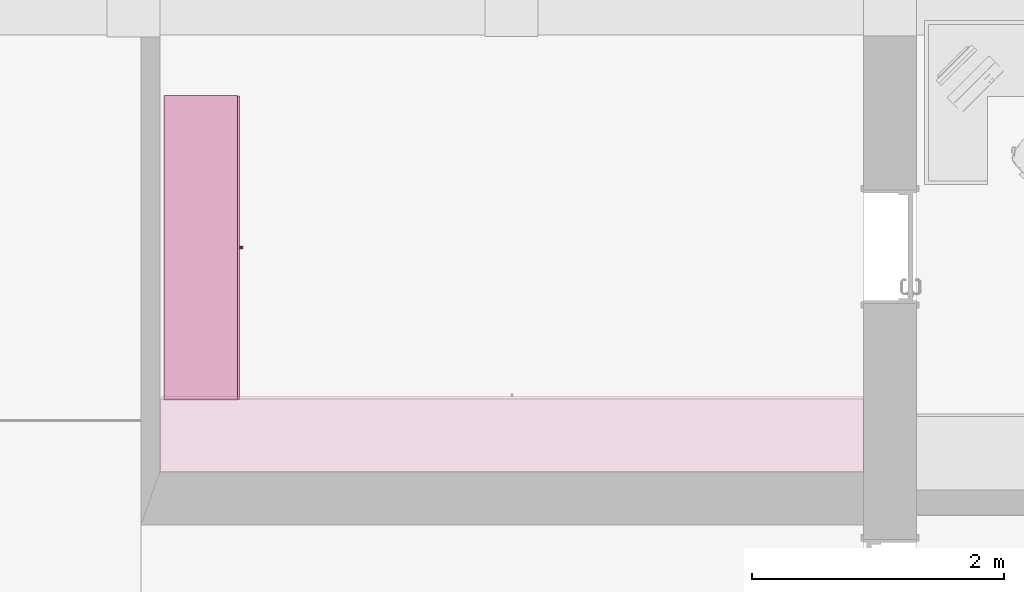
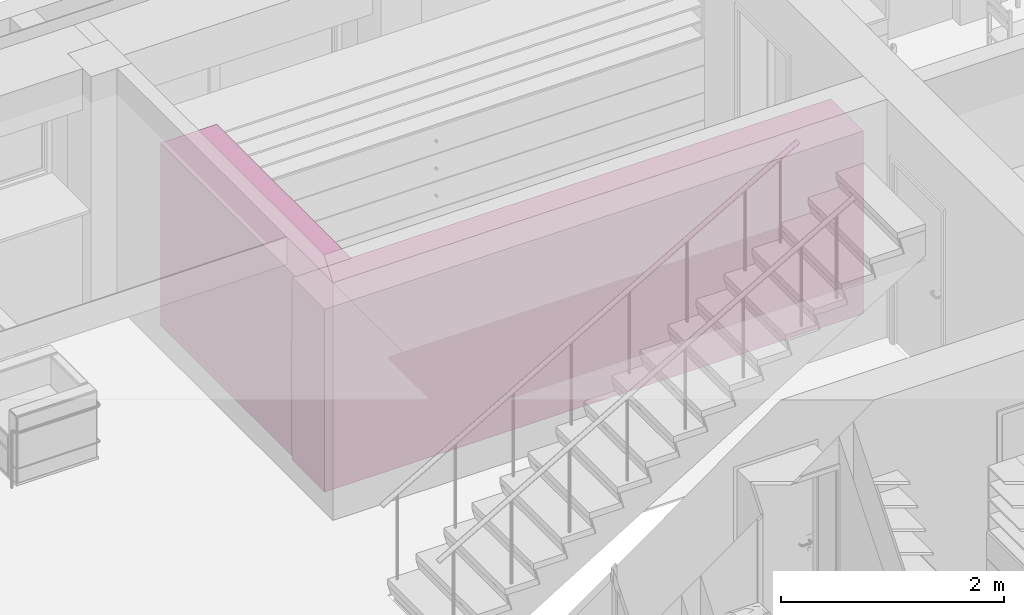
# One storey, part 101 of 127: 2 furnishings.
"""IFC2X3 building model written with IfcOpenShell, lengths in millimetres."""

import ifcopenshell
import ifcopenshell.guid

model = None  # the IFC model being written
_history = None  # IfcOwnerHistory: only IFC2X3 demands one
_inside = {}  # id of a spatial element -> (the spatial element, [elements in it])
_under = {}  # id of a project, library or spatial element -> (it, [spatial elements below it])
_declared = {}  # id of a project -> (the project, [libraries it declares])
_typed = {}  # id of a type object -> (the type object, [elements of that type])
_made_of = {}  # id of a material, layer set ... -> (it, [elements and type objects made of it])


def new_model(schema):
    """Start an empty IFC model of exactly this schema.

    Asked for "IFC4X3", IfcOpenShell would pick the latest addendum, in which some entities
    have other attributes; the version numbers below select the first issue.
    IFC2X3 requires an IfcOwnerHistory on every rooted entity: one is made here for all.
    """
    global model, _history
    if schema == "IFC4X3":
        model = ifcopenshell.file(schema_version=(4, 3, 0, 0))
    else:
        model = ifcopenshell.file(schema=schema)
    _inside.clear()
    _under.clear()
    _declared.clear()
    _typed.clear()
    _made_of.clear()
    _history = None
    if model.schema == "IFC2X3":
        org = make("IfcOrganization", Name="unknown")
        user = make(
            "IfcPersonAndOrganization",
            ThePerson=make("IfcPerson", FamilyName="unknown"),
            TheOrganization=org,
        )
        app = make(
            "IfcApplication",
            ApplicationDeveloper=org,
            Version="unknown",
            ApplicationFullName="unknown",
            ApplicationIdentifier="unknown",
        )
        _history = make(
            "IfcOwnerHistory",
            OwningUser=user,
            OwningApplication=app,
            ChangeAction="ADDED",
            CreationDate=0,
        )
    return model


def make(cls, **values):
    """One entity of the class cls with the attributes given. An attribute that is None is left unset."""
    return model.create_entity(
        cls, **{name: value for name, value in values.items() if value is not None}
    )


def entity(cls, *values):
    """Any entity or typed value of the class cls, its attributes in the order of the schema. None: left unset."""
    e = model.create_entity(cls)
    for i, value in enumerate(values):
        if value is not None:
            e[i] = value
    return e


def rooted(cls, **values):
    """An entity with a GlobalId (a new one), such as an element, a storey or a relation."""
    return make(cls, GlobalId=ifcopenshell.guid.new(), OwnerHistory=_history, **values)


def si_unit(unit_type, name, prefix=None):
    """IfcSIUnit, for example si_unit("LENGTHUNIT", "METRE", prefix="MILLI")."""
    return make("IfcSIUnit", UnitType=unit_type, Prefix=prefix, Name=name)


def converted_unit(unit_type, name, factor, base, dimensions=None, offset=None):
    """IfcConversionBasedUnit, such as the inch: factor (a typed value) times the base unit."""
    return make(
        "IfcConversionBasedUnit"
        if offset is None
        else "IfcConversionBasedUnitWithOffset",
        ConversionOffset=offset,
        Dimensions=None
        if dimensions is None
        else entity("IfcDimensionalExponents", *dimensions),
        UnitType=unit_type,
        Name=name,
        ConversionFactor=make(
            "IfcMeasureWithUnit", ValueComponent=factor, UnitComponent=base
        ),
    )


def derived_unit(unit_type, elements):
    """IfcDerivedUnit: a product of units, each with its exponent."""
    return make(
        "IfcDerivedUnit",
        Elements=[
            make("IfcDerivedUnitElement", Unit=unit, Exponent=power)
            for unit, power in elements
        ],
        UnitType=unit_type,
    )


def money_unit(currency):
    """IfcMonetaryUnit."""
    return make("IfcMonetaryUnit", Currency=currency)


def assignment(units):
    """IfcUnitAssignment: the units of a project."""
    return None if units is None else make("IfcUnitAssignment", Units=units)


def point(xyz):
    """IfcCartesianPoint."""
    return None if xyz is None else make("IfcCartesianPoint", Coordinates=xyz)


def direction(xyz):
    """IfcDirection."""
    return None if xyz is None else make("IfcDirection", DirectionRatios=xyz)


def frame(location, z_axis=None, x_axis=None):
    """IfcAxis2Placement3D, a coordinate frame: its origin and axes. An axis left out is left unset."""
    return make(
        "IfcAxis2Placement3D",
        Location=point(location),
        Axis=direction(z_axis),
        RefDirection=direction(x_axis),
    )


def origin_with_axes():
    """The frame at (0, 0, 0) with the z axis (0, 0, 1) and the x axis (1, 0, 0) written out."""
    return frame((0.0, 0.0, 0.0), z_axis=(0.0, 0.0, 1.0), x_axis=(1.0, 0.0, 0.0))


def place(relative_to, where):
    """IfcLocalPlacement: puts the frame where relative to a parent placement (None: the world)."""
    return make(
        "IfcLocalPlacement", PlacementRelTo=relative_to, RelativePlacement=where
    )


def context(
    kind, dimensions, precision=None, world=None, true_north=None, identifier=None
):
    """IfcGeometricRepresentationContext, for example the 3D "Model" context."""
    return make(
        "IfcGeometricRepresentationContext",
        ContextIdentifier=identifier,
        ContextType=kind,
        CoordinateSpaceDimension=dimensions,
        Precision=precision,
        WorldCoordinateSystem=world,
        TrueNorth=true_north,
    )


def subcontext(parent, identifier, kind, view, scale=None):
    """IfcGeometricRepresentationSubContext, for example "Body" below "Model"."""
    return make(
        "IfcGeometricRepresentationSubContext",
        ContextIdentifier=identifier,
        ContextType=kind,
        ParentContext=parent,
        TargetScale=scale,
        TargetView=view,
    )


def project(units=None, contexts=None):
    """IfcProject with its units and contexts."""
    return rooted(
        "IfcProject",
        Name="project",
        RepresentationContexts=contexts,
        UnitsInContext=assignment(units),
    )


def spatial(cls, under=None, at=None, **own):
    """A site, building, storey or space (cls), placed at a placement, below another one or the project."""
    s = rooted(cls, ObjectPlacement=at, **own)
    if under is not None:
        _under.setdefault(under.id(), (under, []))[1].append(s)
    return s


def faces_of(points, faces, orient=None, outer=None):
    """IfcFace entities. A face is a list of loops; a loop is a list of indices into points, from 0.

    orient and outer hold one flag for each loop. By default every Orientation is true, the
    first loop of a face is its IfcFaceOuterBound and the others are IfcFaceBound.
    """
    made = []
    for i, loops in enumerate(faces):
        bounds = []
        for j, loop in enumerate(loops):
            is_outer = j == 0 if outer is None else outer[i][j]
            bounds.append(
                make(
                    "IfcFaceOuterBound" if is_outer else "IfcFaceBound",
                    Bound=make("IfcPolyLoop", Polygon=[points[k] for k in loop]),
                    Orientation=True if orient is None else orient[i][j],
                )
            )
        made.append(make("IfcFace", Bounds=bounds))
    return made


def faceted_brep(points, faces, orient=None, outer=None, voids=None):
    """IfcFacetedBrep: a solid bounded by flat faces; with voids (closed shells), ...WithVoids."""
    shared = [point(p) for p in points]
    hull = make("IfcClosedShell", CfsFaces=faces_of(shared, faces, orient, outer))
    if voids is None:
        return make("IfcFacetedBrep", Outer=hull)
    return make(
        "IfcFacetedBrepWithVoids",
        Outer=hull,
        Voids=[
            make(cls, CfsFaces=faces_of(shared, fs, o, b)) for cls, fs, o, b in voids
        ],
    )


def shape(context_of_items, identifier, shape_type, items):
    """IfcShapeRepresentation: the items that make up one representation, for example the "Body"."""
    return make(
        "IfcShapeRepresentation",
        ContextOfItems=context_of_items,
        RepresentationIdentifier=identifier,
        RepresentationType=shape_type,
        Items=items,
    )


def made_of(thing, what):
    """Note that an element or type object is made of a material, layer set ...; save() writes the relation."""
    if what is not None:
        _made_of.setdefault(what.id(), (what, []))[1].append(thing)
    return thing


def type_object(cls, material=None, **own):
    """A type object (cls), such as IfcWallType, which elements share."""
    return made_of(rooted(cls, **own), material)


def element(
    cls,
    number,
    at=None,
    inside=None,
    cuts=None,
    type_object=None,
    material=None,
    context=None,
    identifier="Body",
    shape_type=None,
    held_by="IfcProductDefinitionShape",
    body=None,
    shapes=None,
    **own,
):
    """One element of the class cls, such as IfcWall. Its Tag is "e" and its number.

    at: its placement. inside: the storey or other place that contains it. cuts: it is an
    opening in that element (IfcRelVoidsElement). A single representation is given by context,
    identifier, shape_type and body (its items); several are given by shapes. held_by: the class
    of the entity that holds the representations. save() writes the other relations.
    """
    e = rooted(cls, Tag="e%d" % number, ObjectPlacement=at, **own)
    if body is not None:
        shapes = [shape(context, identifier, shape_type, body)]
    if shapes is not None:
        e.Representation = make(held_by, Representations=shapes)
    if inside is not None:
        _inside.setdefault(inside.id(), (inside, []))[1].append(e)
    if cuts is not None:
        rooted(
            "IfcRelVoidsElement", RelatingBuildingElement=cuts, RelatedOpeningElement=e
        )
    if type_object is not None:
        _typed.setdefault(type_object.id(), (type_object, []))[1].append(e)
    return made_of(e, material)


def aggregate(whole, parts):
    """IfcRelAggregates: a whole, such as a stair, and the parts it consists of."""
    return rooted("IfcRelAggregates", RelatingObject=whole, RelatedObjects=parts)


def save(model, path):
    """Write the relations noted so far, then the file.

    IfcRelAggregates (storeys below a building ...), IfcRelContainedInSpatialStructure (elements
    in a storey), IfcRelDefinesByType, IfcRelAssociatesMaterial and IfcRelDeclares: one each for
    every whole, place, type object, material and project.
    """
    for whole, parts in _under.values():
        aggregate(whole, parts)
    for where, things in _inside.values():
        rooted(
            "IfcRelContainedInSpatialStructure",
            RelatedElements=things,
            RelatingStructure=where,
        )
    for kind, things in _typed.values():
        rooted("IfcRelDefinesByType", RelatedObjects=things, RelatingType=kind)
    for what, things in _made_of.values():
        rooted("IfcRelAssociatesMaterial", RelatedObjects=things, RelatingMaterial=what)
    for by, libraries in _declared.values():
        rooted("IfcRelDeclares", RelatingContext=by, RelatedDefinitions=libraries)
    model.write(path)


model = new_model("IFC2X3")

# Units and contexts
model_context = context("Model", 3, precision=1e-05, world=origin_with_axes(), true_north=direction((0.0, 1.0)))
body_context = subcontext(model_context, "Body", "Model", "MODEL_VIEW")
ifc_project = project(units=[si_unit("LENGTHUNIT", "METRE", prefix="MILLI"), si_unit("AREAUNIT", "SQUARE_METRE"), si_unit("VOLUMEUNIT", "CUBIC_METRE"), converted_unit("PLANEANGLEUNIT", "DEGREE", entity("IfcPlaneAngleMeasure", 0.0174532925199), si_unit("PLANEANGLEUNIT", "RADIAN"), dimensions=[0, 0, 0, 0, 0, 0, 0]), si_unit("SOLIDANGLEUNIT", "STERADIAN"), money_unit("EUR"), converted_unit("TIMEUNIT", "Year", entity("IfcTimeMeasure", 31556926.0), si_unit("TIMEUNIT", "SECOND"), dimensions=[0, 0, 1, 0, 0, 0, 0]), si_unit("MASSUNIT", "GRAM", prefix="KILO"), si_unit("THERMODYNAMICTEMPERATUREUNIT", "DEGREE_CELSIUS"), si_unit("LUMINOUSINTENSITYUNIT", "LUMEN"), si_unit("ENERGYUNIT", "JOULE", prefix="MEGA"), derived_unit("THERMALCONDUCTANCEUNIT", [(si_unit("POWERUNIT", "WATT"), 1), (si_unit("LENGTHUNIT", "METRE"), -1), (si_unit("THERMODYNAMICTEMPERATUREUNIT", "KELVIN"), -1)]), derived_unit("SPECIFICHEATCAPACITYUNIT", [(si_unit("ENERGYUNIT", "JOULE"), 1), (si_unit("MASSUNIT", "GRAM", prefix="KILO"), -1), (si_unit("THERMODYNAMICTEMPERATUREUNIT", "KELVIN"), -1)]), derived_unit("MASSDENSITYUNIT", [(si_unit("MASSUNIT", "GRAM", prefix="KILO"), 1), (si_unit("VOLUMEUNIT", "CUBIC_METRE"), -1)])], contexts=[model_context])

# Site, building, storey
site_placement = place(None, origin_with_axes())
site = spatial("IfcSite", under=ifc_project, at=site_placement, Name="Site", CompositionType="ELEMENT")
building_placement = place(site_placement, origin_with_axes())
building = spatial("IfcBuilding", under=site, at=building_placement, Name="Building", CompositionType="ELEMENT")
storey_placement = place(building_placement, origin_with_axes())
storey = spatial("IfcBuildingStorey", under=building, at=storey_placement, Name="1 KORRUS", CompositionType="ELEMENT", Elevation=0.0)

# Furnishings
furnishing_element_type_1 = type_object("IfcFurnishingElementType", Name="Model Element 51")
furnishing_1_placement = place(storey_placement, frame((25787.4782996, 46010.5666331, 0.0), z_axis=(0.0, 0.0, 1.0), x_axis=(0.0, 1.0, 0.0)))
element("IfcFurnishingElement", 1, at=furnishing_1_placement, inside=storey, type_object=furnishing_element_type_1, Name="FU - 013", context=body_context, shape_type="Brep", body=[
    faceted_brep([(-2416.40847365, 19.0, 0.0), (-2416.40847365, 599.999999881, 0.0), (0.0, 599.999999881, 0.0), (0.0, 19.0, 0.0), (-2416.40847365, 19.0, 100.0), (-2416.40847365, 599.999999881, 100.0), (0.0, 599.999999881, 100.0), (0.0, 19.0, 100.0)], [[[0, 1, 2, 3]], [[0, 4, 5, 1]], [[1, 5, 6, 2]], [[2, 6, 7, 3]], [[3, 7, 4, 0]], [[7, 6, 5, 4]]]),
    faceted_brep([(-19.0, 599.999999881, 119.0), (-19.0, 599.999999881, 1981.0), (-19.0, 580.999999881, 1981.0), (-19.0, 580.999999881, 119.0), (-2397.40847365, 599.999999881, 119.0), (-2397.40847365, 599.999999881, 1981.0), (-2397.40847365, 580.999999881, 1981.0), (-2397.40847365, 580.999999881, 119.0)], [[[0, 1, 2, 3]], [[4, 5, 1, 0]], [[1, 5, 6, 2]], [[3, 2, 6, 7]], [[0, 3, 7, 4]], [[7, 6, 5, 4]]]),
    faceted_brep([(-2416.40847365, 19.0, 100.0), (-2416.40847365, 599.999999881, 100.0), (-2397.40847365, 599.999999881, 100.0), (-2397.40847365, 19.0, 100.0), (-2416.40847365, 19.0, 2000.0), (-2416.40847365, 599.999999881, 2000.0), (-2397.40847365, 599.999999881, 2000.0), (-2397.40847365, 19.0, 2000.0)], [[[0, 1, 2, 3]], [[0, 4, 5, 1]], [[1, 5, 6, 2]], [[2, 6, 7, 3]], [[3, 7, 4, 0]], [[7, 6, 5, 4]]]),
    faceted_brep([(-19.0, 19.0, 100.0), (-19.0, 599.999999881, 100.0), (0.0, 599.999999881, 100.0), (0.0, 19.0, 100.0), (-19.0, 19.0, 2000.0), (-19.0, 599.999999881, 2000.0), (0.0, 599.999999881, 2000.0), (0.0, 19.0, 2000.0)], [[[0, 1, 2, 3]], [[0, 4, 5, 1]], [[1, 5, 6, 2]], [[2, 6, 7, 3]], [[3, 7, 4, 0]], [[7, 6, 5, 4]]]),
    faceted_brep([(-2397.40847365, 19.0, 100.0), (-2397.40847365, 599.999999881, 100.0), (-19.0, 599.999999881, 100.0), (-19.0, 19.0, 100.0), (-2397.40847365, 19.0, 119.0), (-2397.40847365, 599.999999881, 119.0), (-19.0, 599.999999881, 119.0), (-19.0, 19.0, 119.0)], [[[0, 1, 2, 3]], [[0, 4, 5, 1]], [[1, 5, 6, 2]], [[2, 6, 7, 3]], [[3, 7, 4, 0]], [[7, 6, 5, 4]]]),
    faceted_brep([(-2397.40847365, 19.0, 1981.0), (-2397.40847365, 599.999999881, 1981.0), (-19.0, 599.999999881, 1981.0), (-19.0, 19.0, 1981.0), (-2397.40847365, 19.0, 2000.0), (-2397.40847365, 599.999999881, 2000.0), (-19.0, 599.999999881, 2000.0), (-19.0, 19.0, 2000.0)], [[[0, 1, 2, 3]], [[0, 4, 5, 1]], [[1, 5, 6, 2]], [[2, 6, 7, 3]], [[3, 7, 4, 0]], [[7, 6, 5, 4]]]),
    faceted_brep([(-5.0, 19.0, 105.0), (-5.0, 0.0, 105.0), (-2411.40847365, 0.0, 105.0), (-2411.40847365, 19.0, 105.0), (-5.0, 19.0, 395.0), (-5.0, 0.0, 395.0), (-2411.40847365, 0.0, 395.0), (-2411.40847365, 19.0, 395.0)], [[[0, 1, 2, 3]], [[4, 5, 1, 0]], [[1, 5, 6, 2]], [[3, 2, 6, 7]], [[0, 3, 7, 4]], [[7, 6, 5, 4]]]),
    faceted_brep([(-1218.59654167, 0.0, 244.0), (-1220.20423683, 0.0, 250.0), (-1218.59654167, 0.0, 256.0), (-1214.20423683, 0.0, 260.392304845), (-1208.20423683, 0.0, 262.0), (-1202.20423683, 0.0, 260.392304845), (-1197.81193198, 0.0, 256.0), (-1196.20423683, 0.0, 250.0), (-1197.81193198, 0.0, 244.0), (-1202.20423683, 0.0, 239.607695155), (-1208.20423683, 0.0, 238.0), (-1214.20423683, 0.0, 239.607695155), (-1218.59654167, -25.0, 244.0), (-1220.20423683, -25.0, 250.0), (-1218.59654167, -25.0, 256.0), (-1214.20423683, -25.0, 260.392304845), (-1208.20423683, -25.0, 262.0), (-1202.20423683, -25.0, 260.392304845), (-1197.81193198, -25.0, 256.0), (-1196.20423683, -25.0, 250.0), (-1197.81193198, -25.0, 244.0), (-1202.20423683, -25.0, 239.607695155), (-1208.20423683, -25.0, 238.0), (-1214.20423683, -25.0, 239.607695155)], [[[0, 1, 2, 3, 4, 5, 6, 7, 8, 9, 10, 11]], [[0, 12, 13, 1]], [[1, 13, 14, 2]], [[2, 14, 15, 3]], [[3, 15, 16, 4]], [[4, 16, 17, 5]], [[5, 17, 18, 6]], [[6, 18, 19, 7]], [[7, 19, 20, 8]], [[8, 20, 21, 9]], [[9, 21, 22, 10]], [[10, 22, 23, 11]], [[11, 23, 12, 0]], [[12, 23, 22, 21, 20, 19, 18, 17, 16, 15, 14, 13]]]),
    faceted_brep([(-5.0, 19.0, 405.0), (-5.0, 0.0, 405.0), (-2411.40847365, 0.0, 405.0), (-2411.40847365, 19.0, 405.0), (-5.0, 19.0, 695.0), (-5.0, 0.0, 695.0), (-2411.40847365, 0.0, 695.0), (-2411.40847365, 19.0, 695.0)], [[[0, 1, 2, 3]], [[4, 5, 1, 0]], [[1, 5, 6, 2]], [[3, 2, 6, 7]], [[0, 3, 7, 4]], [[7, 6, 5, 4]]]),
    faceted_brep([(-1218.59654167, 0.0, 544.0), (-1220.20423683, 0.0, 550.0), (-1218.59654167, 0.0, 556.0), (-1214.20423683, 0.0, 560.392304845), (-1208.20423683, 0.0, 562.0), (-1202.20423683, 0.0, 560.392304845), (-1197.81193198, 0.0, 556.0), (-1196.20423683, 0.0, 550.0), (-1197.81193198, 0.0, 544.0), (-1202.20423683, 0.0, 539.607695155), (-1208.20423683, 0.0, 538.0), (-1214.20423683, 0.0, 539.607695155), (-1218.59654167, -25.0, 544.0), (-1220.20423683, -25.0, 550.0), (-1218.59654167, -25.0, 556.0), (-1214.20423683, -25.0, 560.392304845), (-1208.20423683, -25.0, 562.0), (-1202.20423683, -25.0, 560.392304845), (-1197.81193198, -25.0, 556.0), (-1196.20423683, -25.0, 550.0), (-1197.81193198, -25.0, 544.0), (-1202.20423683, -25.0, 539.607695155), (-1208.20423683, -25.0, 538.0), (-1214.20423683, -25.0, 539.607695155)], [[[0, 1, 2, 3, 4, 5, 6, 7, 8, 9, 10, 11]], [[0, 12, 13, 1]], [[1, 13, 14, 2]], [[2, 14, 15, 3]], [[3, 15, 16, 4]], [[4, 16, 17, 5]], [[5, 17, 18, 6]], [[6, 18, 19, 7]], [[7, 19, 20, 8]], [[8, 20, 21, 9]], [[9, 21, 22, 10]], [[10, 22, 23, 11]], [[11, 23, 12, 0]], [[12, 23, 22, 21, 20, 19, 18, 17, 16, 15, 14, 13]]]),
    faceted_brep([(-5.0, 19.0, 705.0), (-5.0, 0.0, 705.0), (-2411.40847365, 0.0, 705.0), (-2411.40847365, 19.0, 705.0), (-5.0, 19.0, 995.0), (-5.0, 0.0, 995.0), (-2411.40847365, 0.0, 995.0), (-2411.40847365, 19.0, 995.0)], [[[0, 1, 2, 3]], [[4, 5, 1, 0]], [[1, 5, 6, 2]], [[3, 2, 6, 7]], [[0, 3, 7, 4]], [[7, 6, 5, 4]]]),
    faceted_brep([(-1218.59654167, 0.0, 844.0), (-1220.20423683, 0.0, 850.0), (-1218.59654167, 0.0, 856.0), (-1214.20423683, 0.0, 860.392304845), (-1208.20423683, 0.0, 862.0), (-1202.20423683, 0.0, 860.392304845), (-1197.81193198, 0.0, 856.0), (-1196.20423683, 0.0, 850.0), (-1197.81193198, 0.0, 844.0), (-1202.20423683, 0.0, 839.607695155), (-1208.20423683, 0.0, 838.0), (-1214.20423683, 0.0, 839.607695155), (-1218.59654167, -25.0, 844.0), (-1220.20423683, -25.0, 850.0), (-1218.59654167, -25.0, 856.0), (-1214.20423683, -25.0, 860.392304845), (-1208.20423683, -25.0, 862.0), (-1202.20423683, -25.0, 860.392304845), (-1197.81193198, -25.0, 856.0), (-1196.20423683, -25.0, 850.0), (-1197.81193198, -25.0, 844.0), (-1202.20423683, -25.0, 839.607695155), (-1208.20423683, -25.0, 838.0), (-1214.20423683, -25.0, 839.607695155)], [[[0, 1, 2, 3, 4, 5, 6, 7, 8, 9, 10, 11]], [[0, 12, 13, 1]], [[1, 13, 14, 2]], [[2, 14, 15, 3]], [[3, 15, 16, 4]], [[4, 16, 17, 5]], [[5, 17, 18, 6]], [[6, 18, 19, 7]], [[7, 19, 20, 8]], [[8, 20, 21, 9]], [[9, 21, 22, 10]], [[10, 22, 23, 11]], [[11, 23, 12, 0]], [[12, 23, 22, 21, 20, 19, 18, 17, 16, 15, 14, 13]]]),
    faceted_brep([(-5.0, 19.0, 1005.0), (-5.0, 0.0, 1005.0), (-2411.40847365, 0.0, 1005.0), (-2411.40847365, 19.0, 1005.0), (-5.0, 19.0, 1295.0), (-5.0, 0.0, 1295.0), (-2411.40847365, 0.0, 1295.0), (-2411.40847365, 19.0, 1295.0)], [[[0, 1, 2, 3]], [[4, 5, 1, 0]], [[1, 5, 6, 2]], [[3, 2, 6, 7]], [[0, 3, 7, 4]], [[7, 6, 5, 4]]]),
    faceted_brep([(-1218.59654167, 0.0, 1144.0), (-1220.20423683, 0.0, 1150.0), (-1218.59654167, 0.0, 1156.0), (-1214.20423683, 0.0, 1160.39230485), (-1208.20423683, 0.0, 1162.0), (-1202.20423683, 0.0, 1160.39230485), (-1197.81193198, 0.0, 1156.0), (-1196.20423683, 0.0, 1150.0), (-1197.81193198, 0.0, 1144.0), (-1202.20423683, 0.0, 1139.60769515), (-1208.20423683, 0.0, 1138.0), (-1214.20423683, 0.0, 1139.60769515), (-1218.59654167, -25.0, 1144.0), (-1220.20423683, -25.0, 1150.0), (-1218.59654167, -25.0, 1156.0), (-1214.20423683, -25.0, 1160.39230485), (-1208.20423683, -25.0, 1162.0), (-1202.20423683, -25.0, 1160.39230485), (-1197.81193198, -25.0, 1156.0), (-1196.20423683, -25.0, 1150.0), (-1197.81193198, -25.0, 1144.0), (-1202.20423683, -25.0, 1139.60769515), (-1208.20423683, -25.0, 1138.0), (-1214.20423683, -25.0, 1139.60769515)], [[[0, 1, 2, 3, 4, 5, 6, 7, 8, 9, 10, 11]], [[0, 12, 13, 1]], [[1, 13, 14, 2]], [[2, 14, 15, 3]], [[3, 15, 16, 4]], [[4, 16, 17, 5]], [[5, 17, 18, 6]], [[6, 18, 19, 7]], [[7, 19, 20, 8]], [[8, 20, 21, 9]], [[9, 21, 22, 10]], [[10, 22, 23, 11]], [[11, 23, 12, 0]], [[12, 23, 22, 21, 20, 19, 18, 17, 16, 15, 14, 13]]]),
    faceted_brep([(-19.0, 19.0, 390.5), (-19.0, 19.0, 409.5), (-2397.40847365, 19.0, 409.5), (-2397.40847365, 19.0, 390.5), (-19.0, 580.999999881, 390.5), (-19.0, 580.999999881, 409.5), (-2397.40847365, 580.999999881, 409.5), (-2397.40847365, 580.999999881, 390.5)], [[[0, 1, 2, 3]], [[4, 5, 1, 0]], [[1, 5, 6, 2]], [[3, 2, 6, 7]], [[0, 3, 7, 4]], [[7, 6, 5, 4]]]),
    faceted_brep([(-19.0, 19.0, 690.5), (-19.0, 19.0, 709.5), (-2397.40847365, 19.0, 709.5), (-2397.40847365, 19.0, 690.5), (-19.0, 580.999999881, 690.5), (-19.0, 580.999999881, 709.5), (-2397.40847365, 580.999999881, 709.5), (-2397.40847365, 580.999999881, 690.5)], [[[0, 1, 2, 3]], [[4, 5, 1, 0]], [[1, 5, 6, 2]], [[3, 2, 6, 7]], [[0, 3, 7, 4]], [[7, 6, 5, 4]]]),
    faceted_brep([(-19.0, 19.0, 990.5), (-19.0, 19.0, 1009.5), (-2397.40847365, 19.0, 1009.5), (-2397.40847365, 19.0, 990.5), (-19.0, 580.999999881, 990.5), (-19.0, 580.999999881, 1009.5), (-2397.40847365, 580.999999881, 1009.5), (-2397.40847365, 580.999999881, 990.5)], [[[0, 1, 2, 3]], [[4, 5, 1, 0]], [[1, 5, 6, 2]], [[3, 2, 6, 7]], [[0, 3, 7, 4]], [[7, 6, 5, 4]]]),
    faceted_brep([(-19.0, 19.0, 1290.5), (-19.0, 19.0, 1309.5), (-2397.40847365, 19.0, 1309.5), (-2397.40847365, 19.0, 1290.5), (-19.0, 580.999999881, 1290.5), (-19.0, 580.999999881, 1309.5), (-2397.40847365, 580.999999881, 1309.5), (-2397.40847365, 580.999999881, 1290.5)], [[[0, 1, 2, 3]], [[4, 5, 1, 0]], [[1, 5, 6, 2]], [[3, 2, 6, 7]], [[0, 3, 7, 4]], [[7, 6, 5, 4]]]),
    faceted_brep([(-2397.40847365, 19.0, 1463.125), (-2397.40847365, 580.999999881, 1463.125), (-19.0, 580.999999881, 1463.125), (-19.0, 19.0, 1463.125), (-2397.40847365, 19.0, 1482.125), (-2397.40847365, 580.999999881, 1482.125), (-19.0, 580.999999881, 1482.125), (-19.0, 19.0, 1482.125)], [[[0, 1, 2, 3]], [[0, 4, 5, 1]], [[1, 5, 6, 2]], [[2, 6, 7, 3]], [[3, 7, 4, 0]], [[7, 6, 5, 4]]]),
    faceted_brep([(-2397.40847365, 19.0, 1635.75), (-2397.40847365, 580.999999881, 1635.75), (-19.0, 580.999999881, 1635.75), (-19.0, 19.0, 1635.75), (-2397.40847365, 19.0, 1654.75), (-2397.40847365, 580.999999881, 1654.75), (-19.0, 580.999999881, 1654.75), (-19.0, 19.0, 1654.75)], [[[0, 1, 2, 3]], [[0, 4, 5, 1]], [[1, 5, 6, 2]], [[2, 6, 7, 3]], [[3, 7, 4, 0]], [[7, 6, 5, 4]]]),
    faceted_brep([(-2397.40847365, 19.0, 1808.375), (-2397.40847365, 580.999999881, 1808.375), (-19.0, 580.999999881, 1808.375), (-19.0, 19.0, 1808.375), (-2397.40847365, 19.0, 1827.375), (-2397.40847365, 580.999999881, 1827.375), (-19.0, 580.999999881, 1827.375), (-19.0, 19.0, 1827.375)], [[[0, 1, 2, 3]], [[0, 4, 5, 1]], [[1, 5, 6, 2]], [[2, 6, 7, 3]], [[3, 7, 4, 0]], [[7, 6, 5, 4]]]),
])
furnishing_element_type_2 = type_object("IfcFurnishingElementType", Name="Model Element 49")
furnishing_2_placement = place(storey_placement, frame((30733.8006358, 43622.8754333, 0.0), z_axis=(0.0, 0.0, 1.0), x_axis=(-1.0, 0.0, 0.0)))
element("IfcFurnishingElement", 2, at=furnishing_2_placement, inside=storey, type_object=furnishing_element_type_2, Name="FU - 013", context=body_context, shape_type="Brep", body=[
    faceted_brep([(5573.89062701, 19.0, 0.0), (0.0, 19.0, 0.0), (0.0, 599.999999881, 0.0), (5573.89062701, 599.999999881, 0.0), (5573.89062701, 19.0, 100.0), (0.0, 19.0, 100.0), (0.0, 599.999999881, 100.0), (5573.89062701, 599.999999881, 100.0)], [[[0, 1, 2, 3]], [[1, 0, 4, 5]], [[2, 1, 5, 6]], [[3, 2, 6, 7]], [[0, 3, 7, 4]], [[5, 4, 7, 6]]]),
    faceted_brep([(19.0, 599.999999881, 119.0), (19.0, 580.999999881, 119.0), (19.0, 580.999999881, 1981.0), (19.0, 599.999999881, 1981.0), (5554.89062701, 599.999999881, 119.0), (5554.89062701, 580.999999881, 119.0), (5554.89062701, 580.999999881, 1981.0), (5554.89062701, 599.999999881, 1981.0)], [[[0, 1, 2, 3]], [[0, 4, 5, 1]], [[1, 5, 6, 2]], [[3, 2, 6, 7]], [[4, 0, 3, 7]], [[5, 4, 7, 6]]]),
    faceted_brep([(5573.89062701, 19.0, 100.0), (5554.89062701, 19.0, 100.0), (5554.89062701, 599.999999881, 100.0), (5573.89062701, 599.999999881, 100.0), (5573.89062701, 19.0, 2000.0), (5554.89062701, 19.0, 2000.0), (5554.89062701, 599.999999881, 2000.0), (5573.89062701, 599.999999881, 2000.0)], [[[0, 1, 2, 3]], [[1, 0, 4, 5]], [[2, 1, 5, 6]], [[3, 2, 6, 7]], [[0, 3, 7, 4]], [[5, 4, 7, 6]]]),
    faceted_brep([(19.0, 19.0, 100.0), (0.0, 19.0, 100.0), (0.0, 599.999999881, 100.0), (19.0, 599.999999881, 100.0), (19.0, 19.0, 2000.0), (0.0, 19.0, 2000.0), (0.0, 599.999999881, 2000.0), (19.0, 599.999999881, 2000.0)], [[[0, 1, 2, 3]], [[1, 0, 4, 5]], [[2, 1, 5, 6]], [[3, 2, 6, 7]], [[0, 3, 7, 4]], [[5, 4, 7, 6]]]),
    faceted_brep([(5554.89062701, 19.0, 100.0), (19.0, 19.0, 100.0), (19.0, 599.999999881, 100.0), (5554.89062701, 599.999999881, 100.0), (5554.89062701, 19.0, 119.0), (19.0, 19.0, 119.0), (19.0, 599.999999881, 119.0), (5554.89062701, 599.999999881, 119.0)], [[[0, 1, 2, 3]], [[1, 0, 4, 5]], [[2, 1, 5, 6]], [[3, 2, 6, 7]], [[0, 3, 7, 4]], [[5, 4, 7, 6]]]),
    faceted_brep([(5554.89062701, 19.0, 1981.0), (19.0, 19.0, 1981.0), (19.0, 599.999999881, 1981.0), (5554.89062701, 599.999999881, 1981.0), (5554.89062701, 19.0, 2000.0), (19.0, 19.0, 2000.0), (19.0, 599.999999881, 2000.0), (5554.89062701, 599.999999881, 2000.0)], [[[0, 1, 2, 3]], [[1, 0, 4, 5]], [[2, 1, 5, 6]], [[3, 2, 6, 7]], [[0, 3, 7, 4]], [[5, 4, 7, 6]]]),
    faceted_brep([(5.0, 19.0, 105.0), (5568.89062701, 19.0, 105.0), (5568.89062701, 0.0, 105.0), (5.0, 0.0, 105.0), (5.0, 19.0, 395.0), (5568.89062701, 19.0, 395.0), (5568.89062701, 0.0, 395.0), (5.0, 0.0, 395.0)], [[[0, 1, 2, 3]], [[0, 4, 5, 1]], [[1, 5, 6, 2]], [[3, 2, 6, 7]], [[4, 0, 3, 7]], [[5, 4, 7, 6]]]),
    faceted_brep([(2797.33761835, 0.0, 244.0), (2792.94531351, 0.0, 239.607695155), (2786.94531351, 0.0, 238.0), (2780.94531351, 0.0, 239.607695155), (2776.55300866, 0.0, 244.0), (2774.94531351, 0.0, 250.0), (2776.55300866, 0.0, 256.0), (2780.94531351, 0.0, 260.392304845), (2786.94531351, 0.0, 262.0), (2792.94531351, 0.0, 260.392304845), (2797.33761835, 0.0, 256.0), (2798.94531351, 0.0, 250.0), (2797.33761835, -25.0, 244.0), (2792.94531351, -25.0, 239.607695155), (2786.94531351, -25.0, 238.0), (2780.94531351, -25.0, 239.607695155), (2776.55300866, -25.0, 244.0), (2774.94531351, -25.0, 250.0), (2776.55300866, -25.0, 256.0), (2780.94531351, -25.0, 260.392304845), (2786.94531351, -25.0, 262.0), (2792.94531351, -25.0, 260.392304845), (2797.33761835, -25.0, 256.0), (2798.94531351, -25.0, 250.0)], [[[0, 1, 2, 3, 4, 5, 6, 7, 8, 9, 10, 11]], [[1, 0, 12, 13]], [[2, 1, 13, 14]], [[3, 2, 14, 15]], [[4, 3, 15, 16]], [[5, 4, 16, 17]], [[6, 5, 17, 18]], [[7, 6, 18, 19]], [[8, 7, 19, 20]], [[9, 8, 20, 21]], [[10, 9, 21, 22]], [[11, 10, 22, 23]], [[0, 11, 23, 12]], [[12, 23, 22, 21, 20, 19, 18, 17, 16, 15, 14, 13]]]),
    faceted_brep([(5.0, 19.0, 405.0), (5568.89062701, 19.0, 405.0), (5568.89062701, 0.0, 405.0), (5.0, 0.0, 405.0), (5.0, 19.0, 695.0), (5568.89062701, 19.0, 695.0), (5568.89062701, 0.0, 695.0), (5.0, 0.0, 695.0)], [[[0, 1, 2, 3]], [[0, 4, 5, 1]], [[1, 5, 6, 2]], [[3, 2, 6, 7]], [[4, 0, 3, 7]], [[5, 4, 7, 6]]]),
    faceted_brep([(2797.33761835, 0.0, 544.0), (2792.94531351, 0.0, 539.607695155), (2786.94531351, 0.0, 538.0), (2780.94531351, 0.0, 539.607695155), (2776.55300866, 0.0, 544.0), (2774.94531351, 0.0, 550.0), (2776.55300866, 0.0, 556.0), (2780.94531351, 0.0, 560.392304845), (2786.94531351, 0.0, 562.0), (2792.94531351, 0.0, 560.392304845), (2797.33761835, 0.0, 556.0), (2798.94531351, 0.0, 550.0), (2797.33761835, -25.0, 544.0), (2792.94531351, -25.0, 539.607695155), (2786.94531351, -25.0, 538.0), (2780.94531351, -25.0, 539.607695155), (2776.55300866, -25.0, 544.0), (2774.94531351, -25.0, 550.0), (2776.55300866, -25.0, 556.0), (2780.94531351, -25.0, 560.392304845), (2786.94531351, -25.0, 562.0), (2792.94531351, -25.0, 560.392304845), (2797.33761835, -25.0, 556.0), (2798.94531351, -25.0, 550.0)], [[[0, 1, 2, 3, 4, 5, 6, 7, 8, 9, 10, 11]], [[1, 0, 12, 13]], [[2, 1, 13, 14]], [[3, 2, 14, 15]], [[4, 3, 15, 16]], [[5, 4, 16, 17]], [[6, 5, 17, 18]], [[7, 6, 18, 19]], [[8, 7, 19, 20]], [[9, 8, 20, 21]], [[10, 9, 21, 22]], [[11, 10, 22, 23]], [[0, 11, 23, 12]], [[12, 23, 22, 21, 20, 19, 18, 17, 16, 15, 14, 13]]]),
    faceted_brep([(5.0, 19.0, 705.0), (5568.89062701, 19.0, 705.0), (5568.89062701, 0.0, 705.0), (5.0, 0.0, 705.0), (5.0, 19.0, 995.0), (5568.89062701, 19.0, 995.0), (5568.89062701, 0.0, 995.0), (5.0, 0.0, 995.0)], [[[0, 1, 2, 3]], [[0, 4, 5, 1]], [[1, 5, 6, 2]], [[3, 2, 6, 7]], [[4, 0, 3, 7]], [[5, 4, 7, 6]]]),
    faceted_brep([(2797.33761835, 0.0, 844.0), (2792.94531351, 0.0, 839.607695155), (2786.94531351, 0.0, 838.0), (2780.94531351, 0.0, 839.607695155), (2776.55300866, 0.0, 844.0), (2774.94531351, 0.0, 850.0), (2776.55300866, 0.0, 856.0), (2780.94531351, 0.0, 860.392304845), (2786.94531351, 0.0, 862.0), (2792.94531351, 0.0, 860.392304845), (2797.33761835, 0.0, 856.0), (2798.94531351, 0.0, 850.0), (2797.33761835, -25.0, 844.0), (2792.94531351, -25.0, 839.607695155), (2786.94531351, -25.0, 838.0), (2780.94531351, -25.0, 839.607695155), (2776.55300866, -25.0, 844.0), (2774.94531351, -25.0, 850.0), (2776.55300866, -25.0, 856.0), (2780.94531351, -25.0, 860.392304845), (2786.94531351, -25.0, 862.0), (2792.94531351, -25.0, 860.392304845), (2797.33761835, -25.0, 856.0), (2798.94531351, -25.0, 850.0)], [[[0, 1, 2, 3, 4, 5, 6, 7, 8, 9, 10, 11]], [[1, 0, 12, 13]], [[2, 1, 13, 14]], [[3, 2, 14, 15]], [[4, 3, 15, 16]], [[5, 4, 16, 17]], [[6, 5, 17, 18]], [[7, 6, 18, 19]], [[8, 7, 19, 20]], [[9, 8, 20, 21]], [[10, 9, 21, 22]], [[11, 10, 22, 23]], [[0, 11, 23, 12]], [[12, 23, 22, 21, 20, 19, 18, 17, 16, 15, 14, 13]]]),
    faceted_brep([(5.0, 19.0, 1005.0), (5568.89062701, 19.0, 1005.0), (5568.89062701, 0.0, 1005.0), (5.0, 0.0, 1005.0), (5.0, 19.0, 1295.0), (5568.89062701, 19.0, 1295.0), (5568.89062701, 0.0, 1295.0), (5.0, 0.0, 1295.0)], [[[0, 1, 2, 3]], [[0, 4, 5, 1]], [[1, 5, 6, 2]], [[3, 2, 6, 7]], [[4, 0, 3, 7]], [[5, 4, 7, 6]]]),
    faceted_brep([(2797.33761835, 0.0, 1144.0), (2792.94531351, 0.0, 1139.60769515), (2786.94531351, 0.0, 1138.0), (2780.94531351, 0.0, 1139.60769515), (2776.55300866, 0.0, 1144.0), (2774.94531351, 0.0, 1150.0), (2776.55300866, 0.0, 1156.0), (2780.94531351, 0.0, 1160.39230485), (2786.94531351, 0.0, 1162.0), (2792.94531351, 0.0, 1160.39230485), (2797.33761835, 0.0, 1156.0), (2798.94531351, 0.0, 1150.0), (2797.33761835, -25.0, 1144.0), (2792.94531351, -25.0, 1139.60769515), (2786.94531351, -25.0, 1138.0), (2780.94531351, -25.0, 1139.60769515), (2776.55300866, -25.0, 1144.0), (2774.94531351, -25.0, 1150.0), (2776.55300866, -25.0, 1156.0), (2780.94531351, -25.0, 1160.39230485), (2786.94531351, -25.0, 1162.0), (2792.94531351, -25.0, 1160.39230485), (2797.33761835, -25.0, 1156.0), (2798.94531351, -25.0, 1150.0)], [[[0, 1, 2, 3, 4, 5, 6, 7, 8, 9, 10, 11]], [[1, 0, 12, 13]], [[2, 1, 13, 14]], [[3, 2, 14, 15]], [[4, 3, 15, 16]], [[5, 4, 16, 17]], [[6, 5, 17, 18]], [[7, 6, 18, 19]], [[8, 7, 19, 20]], [[9, 8, 20, 21]], [[10, 9, 21, 22]], [[11, 10, 22, 23]], [[0, 11, 23, 12]], [[12, 23, 22, 21, 20, 19, 18, 17, 16, 15, 14, 13]]]),
    faceted_brep([(19.0, 19.0, 390.5), (5554.89062701, 19.0, 390.5), (5554.89062701, 19.0, 409.5), (19.0, 19.0, 409.5), (19.0, 580.999999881, 390.5), (5554.89062701, 580.999999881, 390.5), (5554.89062701, 580.999999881, 409.5), (19.0, 580.999999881, 409.5)], [[[0, 1, 2, 3]], [[0, 4, 5, 1]], [[1, 5, 6, 2]], [[3, 2, 6, 7]], [[4, 0, 3, 7]], [[5, 4, 7, 6]]]),
    faceted_brep([(19.0, 19.0, 690.5), (5554.89062701, 19.0, 690.5), (5554.89062701, 19.0, 709.5), (19.0, 19.0, 709.5), (19.0, 580.999999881, 690.5), (5554.89062701, 580.999999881, 690.5), (5554.89062701, 580.999999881, 709.5), (19.0, 580.999999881, 709.5)], [[[0, 1, 2, 3]], [[0, 4, 5, 1]], [[1, 5, 6, 2]], [[3, 2, 6, 7]], [[4, 0, 3, 7]], [[5, 4, 7, 6]]]),
    faceted_brep([(19.0, 19.0, 990.5), (5554.89062701, 19.0, 990.5), (5554.89062701, 19.0, 1009.5), (19.0, 19.0, 1009.5), (19.0, 580.999999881, 990.5), (5554.89062701, 580.999999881, 990.5), (5554.89062701, 580.999999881, 1009.5), (19.0, 580.999999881, 1009.5)], [[[0, 1, 2, 3]], [[0, 4, 5, 1]], [[1, 5, 6, 2]], [[3, 2, 6, 7]], [[4, 0, 3, 7]], [[5, 4, 7, 6]]]),
    faceted_brep([(19.0, 19.0, 1290.5), (5554.89062701, 19.0, 1290.5), (5554.89062701, 19.0, 1309.5), (19.0, 19.0, 1309.5), (19.0, 580.999999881, 1290.5), (5554.89062701, 580.999999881, 1290.5), (5554.89062701, 580.999999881, 1309.5), (19.0, 580.999999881, 1309.5)], [[[0, 1, 2, 3]], [[0, 4, 5, 1]], [[1, 5, 6, 2]], [[3, 2, 6, 7]], [[4, 0, 3, 7]], [[5, 4, 7, 6]]]),
    faceted_brep([(5554.89062701, 19.0, 1463.125), (19.0, 19.0, 1463.125), (19.0, 580.999999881, 1463.125), (5554.89062701, 580.999999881, 1463.125), (5554.89062701, 19.0, 1482.125), (19.0, 19.0, 1482.125), (19.0, 580.999999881, 1482.125), (5554.89062701, 580.999999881, 1482.125)], [[[0, 1, 2, 3]], [[1, 0, 4, 5]], [[2, 1, 5, 6]], [[3, 2, 6, 7]], [[0, 3, 7, 4]], [[5, 4, 7, 6]]]),
    faceted_brep([(5554.89062701, 19.0, 1635.75), (19.0, 19.0, 1635.75), (19.0, 580.999999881, 1635.75), (5554.89062701, 580.999999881, 1635.75), (5554.89062701, 19.0, 1654.75), (19.0, 19.0, 1654.75), (19.0, 580.999999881, 1654.75), (5554.89062701, 580.999999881, 1654.75)], [[[0, 1, 2, 3]], [[1, 0, 4, 5]], [[2, 1, 5, 6]], [[3, 2, 6, 7]], [[0, 3, 7, 4]], [[5, 4, 7, 6]]]),
    faceted_brep([(5554.89062701, 19.0, 1808.375), (19.0, 19.0, 1808.375), (19.0, 580.999999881, 1808.375), (5554.89062701, 580.999999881, 1808.375), (5554.89062701, 19.0, 1827.375), (19.0, 19.0, 1827.375), (19.0, 580.999999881, 1827.375), (5554.89062701, 580.999999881, 1827.375)], [[[0, 1, 2, 3]], [[1, 0, 4, 5]], [[2, 1, 5, 6]], [[3, 2, 6, 7]], [[0, 3, 7, 4]], [[5, 4, 7, 6]]]),
])

save(model, "model.ifc")
